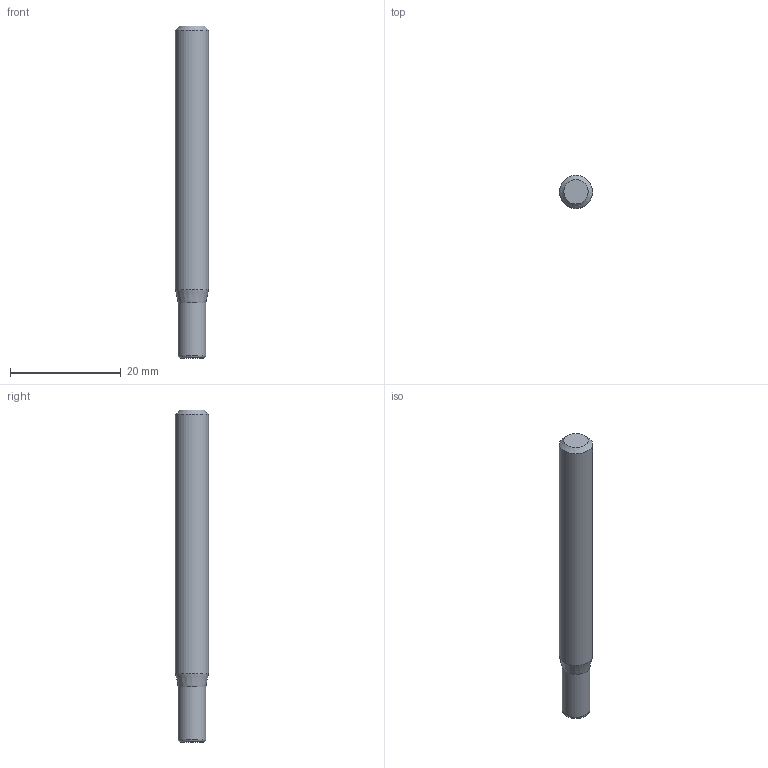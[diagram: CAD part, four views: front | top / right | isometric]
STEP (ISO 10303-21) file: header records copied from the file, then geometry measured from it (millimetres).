
FILE_DESCRIPTION((''),'2;1');
FILE_NAME('C:\Users\nsx150\AppData\Local\Temp\Mastercam 2021\Y59DX2IYLB\TEMP.step','2021-04-08T17:16:27',(''),(''),'STEP Write','Mastercam 2021 ... CNC Software, Inc.','');
FILE_SCHEMA(('AUTOMOTIVE_DESIGN'));
Length unit declared in the file: millimetre
Products named in the file (1): None
Bounding box: 6 x 6 x 60 mm (x, y, z)
Volume: 1593.3 mm3; surface area: 1170.8 mm2
Topology: 2 solids, 2 shells, 9 faces, 12 edges, 7 vertices
Faces by surface type: plane 4, cylinder 2, cone 2, torus 1
Full cylindrical faces by diameter (mm): 5 x1, 6 x1
Entity records: 211 total; most frequent: DIRECTION 36, CARTESIAN_POINT 25, AXIS2_PLACEMENT_3D 18, ORIENTED_EDGE 14, EDGE_LOOP 14, STYLED_ITEM 12, ADVANCED_FACE 9, FACE_BOUND 8
